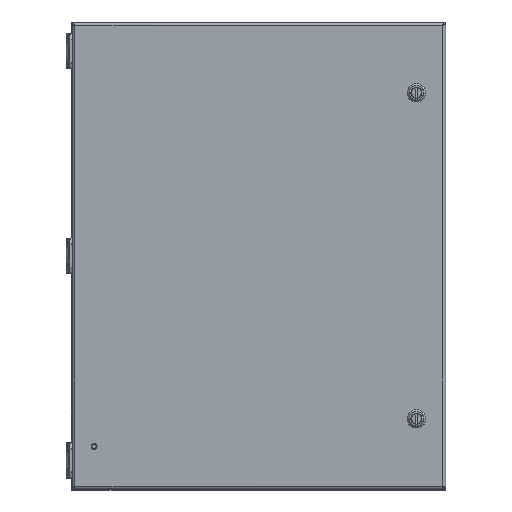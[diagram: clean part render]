
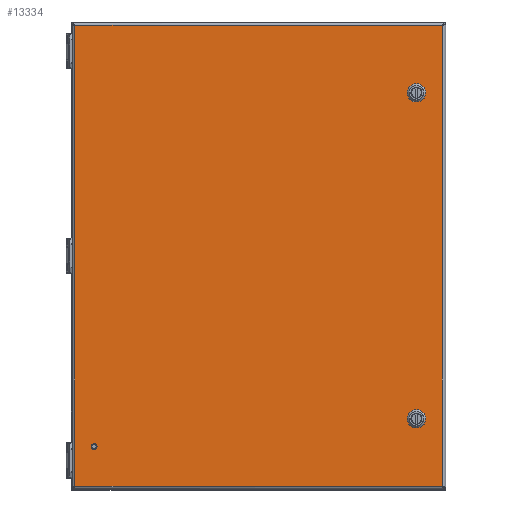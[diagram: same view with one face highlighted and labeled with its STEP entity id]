
A CAD part, top view. The second image highlights one B-rep face of the part: STEP entity #13334.
In plain terms, the highlighted planar face has unit normal (0, 0, 1).
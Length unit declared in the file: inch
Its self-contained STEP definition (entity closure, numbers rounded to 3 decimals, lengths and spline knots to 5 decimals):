
#10869=CARTESIAN_POINT('',(-7.035,-8.16,0.81));
#10870=DIRECTION('',(0.,0.,1.));
#10871=DIRECTION('',(-1.,0.,0.));
#10872=AXIS2_PLACEMENT_3D('',#10869,#10870,#10871);
#10877=CARTESIAN_POINT('',(-7.035,-8.16,0.81));
#10878=DIRECTION('',(0.,0.,1.));
#10879=DIRECTION('',(1.,0.,0.));
#10880=AXIS2_PLACEMENT_3D('',#10877,#10878,#10879);
#10885=DIRECTION('',(0.707,0.707,0.));
#10886=VECTOR('',#10885,0.30984);
#10887=CARTESIAN_POINT('',(6.44447,7.05845,0.81));
#10888=LINE('',#10887,#10886);
#10892=CARTESIAN_POINT('',(6.752,6.97,0.81));
#10893=DIRECTION('',(0.,0.,1.));
#10894=DIRECTION('',(-0.961,0.276,0.));
#10895=AXIS2_PLACEMENT_3D('',#10892,#10893,#10894);
#10900=DIRECTION('',(-0.707,0.707,0.));
#10901=VECTOR('',#10900,0.30984);
#10902=CARTESIAN_POINT('',(6.66355,6.66247,0.81));
#10903=LINE('',#10902,#10901);
#10907=CARTESIAN_POINT('',(6.752,6.97,0.81));
#10908=DIRECTION('',(0.,0.,1.));
#10909=DIRECTION('',(-0.276,-0.961,0.));
#10910=AXIS2_PLACEMENT_3D('',#10907,#10908,#10909);
#10915=DIRECTION('',(-0.707,-0.707,0.));
#10916=VECTOR('',#10915,0.30984);
#10917=CARTESIAN_POINT('',(7.05953,6.88155,0.81));
#10918=LINE('',#10917,#10916);
#10922=CARTESIAN_POINT('',(6.752,6.97,0.81));
#10923=DIRECTION('',(0.,0.,1.));
#10924=DIRECTION('',(0.961,-0.276,0.));
#10925=AXIS2_PLACEMENT_3D('',#10922,#10923,#10924);
#10930=DIRECTION('',(0.707,-0.707,0.));
#10931=VECTOR('',#10930,0.30984);
#10932=CARTESIAN_POINT('',(6.84045,7.27753,0.81));
#10933=LINE('',#10932,#10931);
#10937=CARTESIAN_POINT('',(6.752,6.97,0.81));
#10938=DIRECTION('',(0.,0.,1.));
#10939=DIRECTION('',(0.276,0.961,0.));
#10940=AXIS2_PLACEMENT_3D('',#10937,#10938,#10939);
#10945=DIRECTION('',(0.707,0.707,0.));
#10946=VECTOR('',#10945,0.30984);
#10947=CARTESIAN_POINT('',(6.44447,-6.88155,0.81));
#10948=LINE('',#10947,#10946);
#10952=CARTESIAN_POINT('',(6.752,-6.97,0.81));
#10953=DIRECTION('',(0.,0.,1.));
#10954=DIRECTION('',(-0.961,0.276,0.));
#10955=AXIS2_PLACEMENT_3D('',#10952,#10953,#10954);
#10960=DIRECTION('',(-0.707,0.707,0.));
#10961=VECTOR('',#10960,0.30984);
#10962=CARTESIAN_POINT('',(6.66355,-7.27753,0.81));
#10963=LINE('',#10962,#10961);
#10967=CARTESIAN_POINT('',(6.752,-6.97,0.81));
#10968=DIRECTION('',(0.,0.,1.));
#10969=DIRECTION('',(-0.276,-0.961,0.));
#10970=AXIS2_PLACEMENT_3D('',#10967,#10968,#10969);
#10975=DIRECTION('',(-0.707,-0.707,0.));
#10976=VECTOR('',#10975,0.30984);
#10977=CARTESIAN_POINT('',(7.05953,-7.05845,0.81));
#10978=LINE('',#10977,#10976);
#10982=CARTESIAN_POINT('',(6.752,-6.97,0.81));
#10983=DIRECTION('',(0.,0.,1.));
#10984=DIRECTION('',(0.961,-0.276,0.));
#10985=AXIS2_PLACEMENT_3D('',#10982,#10983,#10984);
#10990=DIRECTION('',(0.707,-0.707,0.));
#10991=VECTOR('',#10990,0.30984);
#10992=CARTESIAN_POINT('',(6.84045,-6.66247,0.81));
#10993=LINE('',#10992,#10991);
#10997=CARTESIAN_POINT('',(6.752,-6.97,0.81));
#10998=DIRECTION('',(0.,0.,1.));
#10999=DIRECTION('',(0.276,0.961,0.));
#11000=AXIS2_PLACEMENT_3D('',#10997,#10998,#10999);
#11005=DIRECTION('',(1.,0.,0.));
#11006=VECTOR('',#11005,15.7);
#11007=CARTESIAN_POINT('',(-7.85,-9.85,0.81));
#11008=LINE('',#11007,#11006);
#11094=DIRECTION('',(0.,1.,0.));
#11095=VECTOR('',#11094,19.7);
#11096=CARTESIAN_POINT('',(7.85,-9.85,0.81));
#11097=LINE('',#11096,#11095);
#11143=DIRECTION('',(-1.,0.,0.));
#11144=VECTOR('',#11143,15.7);
#11145=CARTESIAN_POINT('',(7.85,9.85,0.81));
#11146=LINE('',#11145,#11144);
#11239=DIRECTION('',(0.,-1.,0.));
#11240=VECTOR('',#11239,19.7);
#11241=CARTESIAN_POINT('',(-7.85,9.85,0.81));
#11242=LINE('',#11241,#11240);
#12957=CARTESIAN_POINT('',(-7.85,9.85,0.81));
#12958=CARTESIAN_POINT('',(-7.85,-9.85,0.81));
#12959=VERTEX_POINT('',#12957);
#12960=VERTEX_POINT('',#12958);
#12961=CARTESIAN_POINT('',(7.85,-9.85,0.81));
#12962=CARTESIAN_POINT('',(7.85,9.85,0.81));
#12963=VERTEX_POINT('',#12961);
#12964=VERTEX_POINT('',#12962);
#13043=CARTESIAN_POINT('',(-7.13305,-8.16,0.81));
#13044=CARTESIAN_POINT('',(-6.93695,-8.16,0.81));
#13045=VERTEX_POINT('',#13043);
#13046=VERTEX_POINT('',#13044);
#13051=CARTESIAN_POINT('',(6.44447,7.05845,0.81));
#13052=CARTESIAN_POINT('',(6.66355,7.27753,0.81));
#13053=VERTEX_POINT('',#13051);
#13054=VERTEX_POINT('',#13052);
#13055=CARTESIAN_POINT('',(6.84045,7.27753,0.81));
#13056=VERTEX_POINT('',#13055);
#13057=CARTESIAN_POINT('',(7.05953,7.05845,0.81));
#13058=VERTEX_POINT('',#13057);
#13059=CARTESIAN_POINT('',(7.05953,6.88155,0.81));
#13060=VERTEX_POINT('',#13059);
#13061=CARTESIAN_POINT('',(6.84045,6.66247,0.81));
#13062=VERTEX_POINT('',#13061);
#13063=CARTESIAN_POINT('',(6.66355,6.66247,0.81));
#13064=VERTEX_POINT('',#13063);
#13065=CARTESIAN_POINT('',(6.44447,6.88155,0.81));
#13066=VERTEX_POINT('',#13065);
#13091=CARTESIAN_POINT('',(6.44447,-6.88155,0.81));
#13092=CARTESIAN_POINT('',(6.66355,-6.66247,0.81));
#13093=VERTEX_POINT('',#13091);
#13094=VERTEX_POINT('',#13092);
#13095=CARTESIAN_POINT('',(6.84045,-6.66247,0.81));
#13096=VERTEX_POINT('',#13095);
#13097=CARTESIAN_POINT('',(7.05953,-6.88155,0.81));
#13098=VERTEX_POINT('',#13097);
#13099=CARTESIAN_POINT('',(7.05953,-7.05845,0.81));
#13100=VERTEX_POINT('',#13099);
#13101=CARTESIAN_POINT('',(6.84045,-7.27753,0.81));
#13102=VERTEX_POINT('',#13101);
#13103=CARTESIAN_POINT('',(6.66355,-7.27753,0.81));
#13104=VERTEX_POINT('',#13103);
#13105=CARTESIAN_POINT('',(6.44447,-7.05845,0.81));
#13106=VERTEX_POINT('',#13105);
#13277=CARTESIAN_POINT('',(0.,0.,0.81));
#13278=DIRECTION('',(0.,0.,1.));
#13279=DIRECTION('',(1.,0.,0.));
#13280=AXIS2_PLACEMENT_3D('',#13277,#13278,#13279);
#13281=PLANE('',#13280);
#13283=ORIENTED_EDGE('',*,*,#13282,.F.);
#13285=ORIENTED_EDGE('',*,*,#13284,.F.);
#13287=ORIENTED_EDGE('',*,*,#13286,.F.);
#13289=ORIENTED_EDGE('',*,*,#13288,.F.);
#13290=EDGE_LOOP('',(#13283,#13285,#13287,#13289));
#13291=FACE_OUTER_BOUND('',#13290,.F.);
#13293=ORIENTED_EDGE('',*,*,#13292,.T.);
#13295=ORIENTED_EDGE('',*,*,#13294,.T.);
#13296=EDGE_LOOP('',(#13293,#13295));
#13297=FACE_BOUND('',#13296,.F.);
#13299=ORIENTED_EDGE('',*,*,#13298,.F.);
#13301=ORIENTED_EDGE('',*,*,#13300,.T.);
#13303=ORIENTED_EDGE('',*,*,#13302,.F.);
#13305=ORIENTED_EDGE('',*,*,#13304,.T.);
#13307=ORIENTED_EDGE('',*,*,#13306,.F.);
#13309=ORIENTED_EDGE('',*,*,#13308,.T.);
#13311=ORIENTED_EDGE('',*,*,#13310,.F.);
#13313=ORIENTED_EDGE('',*,*,#13312,.T.);
#13314=EDGE_LOOP('',(#13299,#13301,#13303,#13305,#13307,#13309,#13311,#13313));
#13315=FACE_BOUND('',#13314,.F.);
#13317=ORIENTED_EDGE('',*,*,#13316,.F.);
#13319=ORIENTED_EDGE('',*,*,#13318,.T.);
#13321=ORIENTED_EDGE('',*,*,#13320,.F.);
#13323=ORIENTED_EDGE('',*,*,#13322,.T.);
#13325=ORIENTED_EDGE('',*,*,#13324,.F.);
#13327=ORIENTED_EDGE('',*,*,#13326,.T.);
#13329=ORIENTED_EDGE('',*,*,#13328,.F.);
#13331=ORIENTED_EDGE('',*,*,#13330,.T.);
#13332=EDGE_LOOP('',(#13317,#13319,#13321,#13323,#13325,#13327,#13329,#13331));
#13333=FACE_BOUND('',#13332,.F.);
#10873=CIRCLE('',#10872,0.09805);
#10881=CIRCLE('',#10880,0.09805);
#10896=CIRCLE('',#10895,0.32);
#10911=CIRCLE('',#10910,0.32);
#10926=CIRCLE('',#10925,0.32);
#10941=CIRCLE('',#10940,0.32);
#10956=CIRCLE('',#10955,0.32);
#10971=CIRCLE('',#10970,0.32);
#10986=CIRCLE('',#10985,0.32);
#11001=CIRCLE('',#11000,0.32);
#13282=EDGE_CURVE('',#12960,#12963,#11008,.T.);
#13284=EDGE_CURVE('',#12959,#12960,#11242,.T.);
#13286=EDGE_CURVE('',#12964,#12959,#11146,.T.);
#13288=EDGE_CURVE('',#12963,#12964,#11097,.T.);
#13292=EDGE_CURVE('',#13045,#13046,#10873,.T.);
#13294=EDGE_CURVE('',#13046,#13045,#10881,.T.);
#13298=EDGE_CURVE('',#13053,#13054,#10888,.T.);
#13300=EDGE_CURVE('',#13053,#13066,#10896,.T.);
#13302=EDGE_CURVE('',#13064,#13066,#10903,.T.);
#13304=EDGE_CURVE('',#13064,#13062,#10911,.T.);
#13306=EDGE_CURVE('',#13060,#13062,#10918,.T.);
#13308=EDGE_CURVE('',#13060,#13058,#10926,.T.);
#13310=EDGE_CURVE('',#13056,#13058,#10933,.T.);
#13312=EDGE_CURVE('',#13056,#13054,#10941,.T.);
#13316=EDGE_CURVE('',#13093,#13094,#10948,.T.);
#13318=EDGE_CURVE('',#13093,#13106,#10956,.T.);
#13320=EDGE_CURVE('',#13104,#13106,#10963,.T.);
#13322=EDGE_CURVE('',#13104,#13102,#10971,.T.);
#13324=EDGE_CURVE('',#13100,#13102,#10978,.T.);
#13326=EDGE_CURVE('',#13100,#13098,#10986,.T.);
#13328=EDGE_CURVE('',#13096,#13098,#10993,.T.);
#13330=EDGE_CURVE('',#13096,#13094,#11001,.T.);
#13334=ADVANCED_FACE('',(#13291,#13297,#13315,#13333),#13281,.T.);
